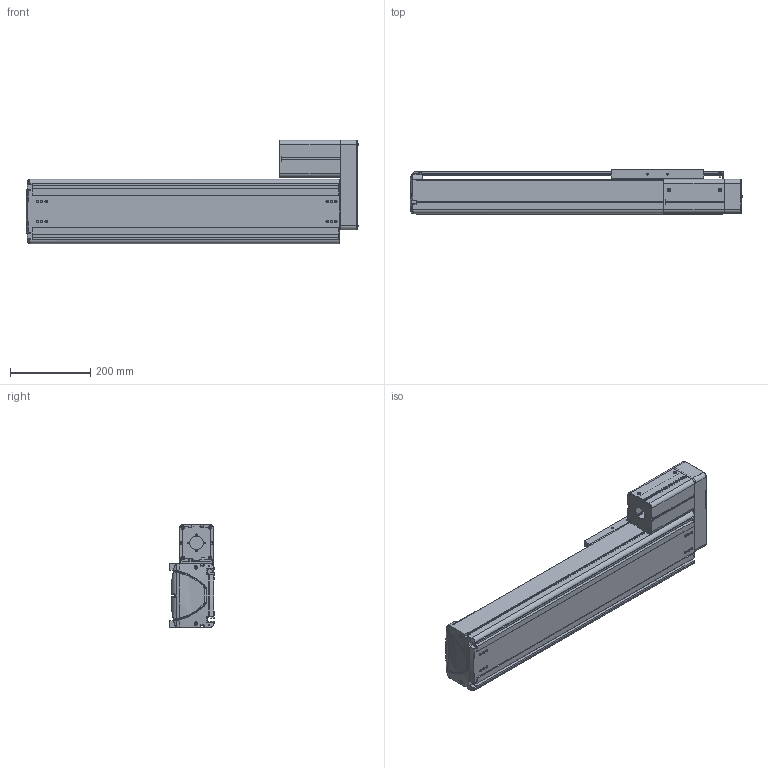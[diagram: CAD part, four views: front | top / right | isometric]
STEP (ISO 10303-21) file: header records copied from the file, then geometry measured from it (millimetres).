
FILE_DESCRIPTION((''),'2;1');
FILE_NAME('BE50F-UR-L_N-45_IGS_PRT','2017-06-18T',(' '),(''),'PRO/ENGINEER BY PARAMETRIC TECHNOLOGY CORPORATION, 2015030','PRO/ENGINEER BY PARAMETRIC TECHNOLOGY CORPORATION, 2015030','');
FILE_SCHEMA(('CONFIG_CONTROL_DESIGN'));
Length unit declared in the file: millimetre
Products named in the file (1): BE50F-UR-L_N-45_IGS_PRT
Bounding box: 825.88 x 110 x 257 mm (x, y, z)
Volume: 4248122.4 mm3; surface area: 1555738.5 mm2
Topology: 2 solids, 119 shells, 2171 faces, 5881 edges, 3829 vertices
Faces by surface type: plane 1004, cylinder 905, cone 123, torus 59, bspline 48, sphere 32
Entity records: 71516 total; most frequent: CARTESIAN_POINT 16172, DIRECTION 11630, ORIENTED_EDGE 11232, EDGE_CURVE 5836, AXIS2_PLACEMENT_3D 4137, VERTEX_POINT 3828, VECTOR 3356, LINE 3356
